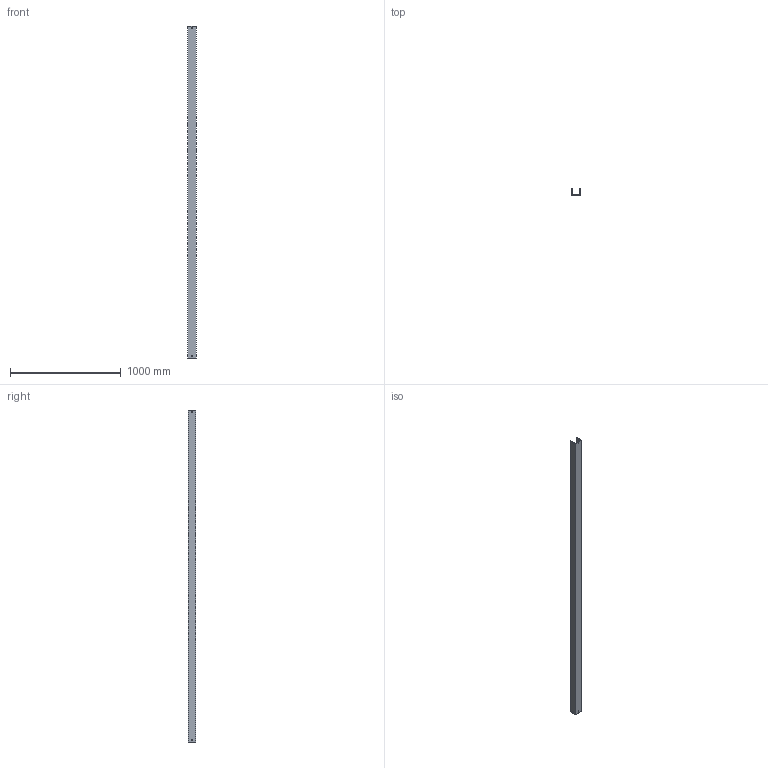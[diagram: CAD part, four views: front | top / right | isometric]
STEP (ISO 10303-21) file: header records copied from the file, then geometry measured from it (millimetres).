
FILE_DESCRIPTION (( 'STEP AP214' ), '1' );
FILE_NAME ('03B3H075.step', '2025-02-21T10:17:59', ( '' ), ( '' ), 'SwSTEP 2.0', 'SolidWorks 2023', '' );
FILE_SCHEMA (( 'AUTOMOTIVE_DESIGN' ));
Length unit declared in the file: millimetre
Products named in the file (1): 03B3H075
Bounding box: 79 x 65.5 x 3000 mm (x, y, z)
Volume: 2130110.5 mm3; surface area: 1240320 mm2
Topology: 1 solids, 1 shells, 34 faces, 96 edges, 64 vertices
Faces by surface type: plane 34
Entity records: 1127 total; most frequent: CARTESIAN_POINT 195, ORIENTED_EDGE 192, DIRECTION 166, VECTOR 96, EDGE_CURVE 96, LINE 96, VERTEX_POINT 64, EDGE_LOOP 46
